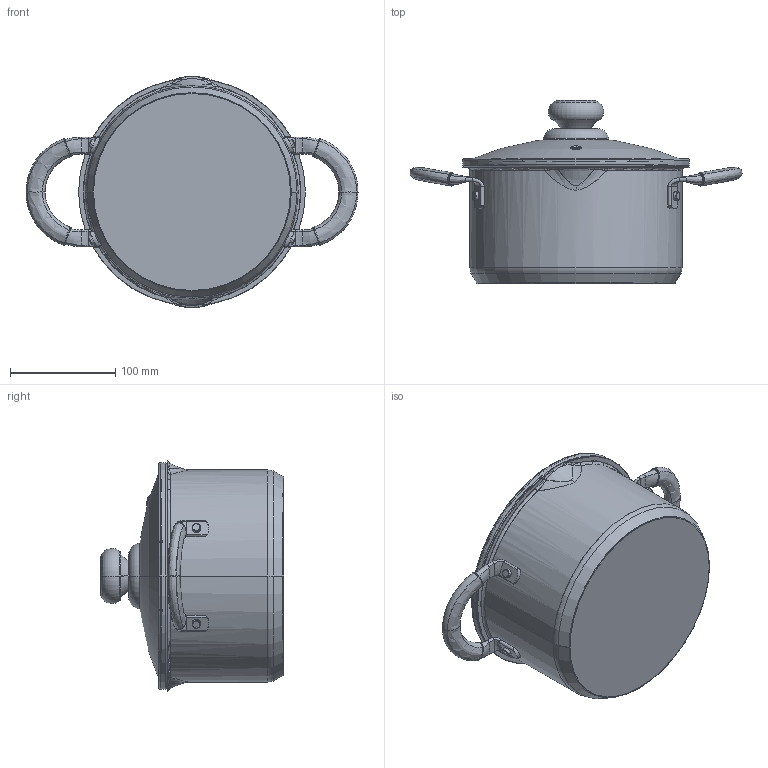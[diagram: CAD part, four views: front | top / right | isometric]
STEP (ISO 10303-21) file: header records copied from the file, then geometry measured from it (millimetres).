
FILE_DESCRIPTION((''),'2;1');
FILE_NAME('200_ASM','2024-03-25T11:11:11',('3'),(''),'CREO PARAMETRIC BY PTC INC, 2021164','CREO PARAMETRIC BY PTC INC, 2021164','');
FILE_SCHEMA(('CONFIG_CONTROL_DESIGN','SHAPE_APPEARANCE_LAYERS_GROUPS'));
Length unit declared in the file: millimetre
Products named in the file (11): 20SHEN; GAIER_1_1_1; GAIER_1_2_1; GAIER_1_3_1; GAIER_1_ASM_1_ASM; CEER_1_1_1_1; CEER_1_2_1_1; CEER_1_ASM_1_1_ASM; ASM0001_ASM; 200X105; 200_ASM
Assembly tree (11 placements, depth 4):
  200_ASM
    20SHEN
    GAIER_1_ASM_1_ASM
      GAIER_1_1_1
      GAIER_1_2_1
      GAIER_1_3_1
    ASM0001_ASM  x2
      CEER_1_ASM_1_1_ASM
        CEER_1_1_1_1
        CEER_1_2_1_1
    200X105
Bounding box: 314.83 x 174.04 x 219.24 mm (x, y, z)
Volume: 378258.7 mm3; surface area: 734475.2 mm2
Topology: 14 solids, 14 shells, 532 faces, 1222 edges, 710 vertices
Faces by surface type: bspline 278, torus 102, cylinder 66, plane 40, cone 26, sphere 20
Entity records: 25059 total; most frequent: CARTESIAN_POINT 16487, ORIENTED_EDGE 1876, DIRECTION 1444, EDGE_CURVE 938, AXIS2_PLACEMENT_3D 636, VERTEX_POINT 562, EDGE_LOOP 498, FACE_OUTER_BOUND 408
